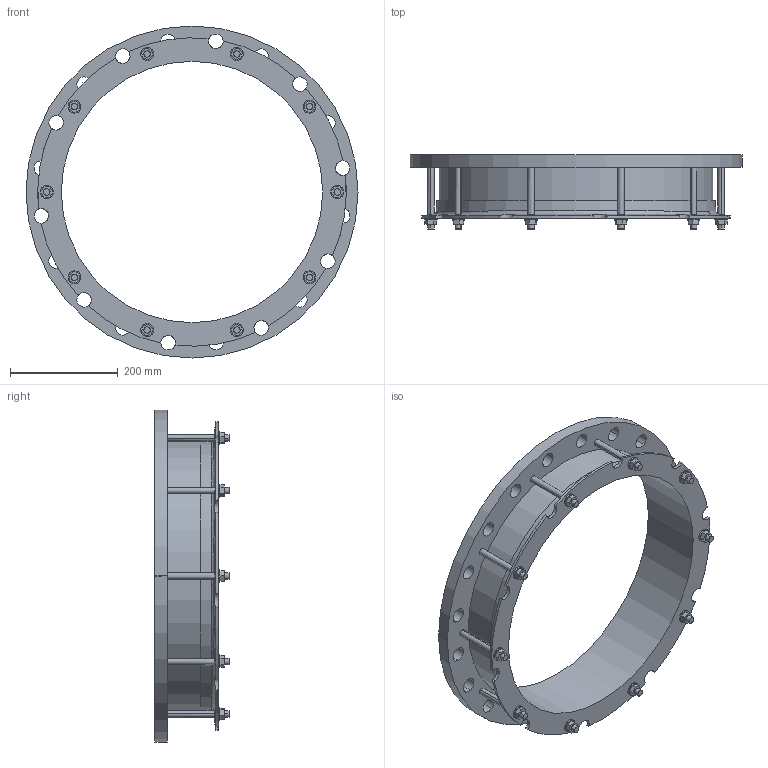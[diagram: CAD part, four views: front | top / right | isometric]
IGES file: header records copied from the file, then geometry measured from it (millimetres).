
Start section:  PTC IGES file: 480x450pn10_10not.igs
Global section: file name: 480x450pn10_10not.igs; native system: Creo Parametric by PTC Inc.; preprocessor: 2016130; author: mfairey; organization: Unknown; date: 20190116.114958; units: millimetre
Bounding box: 615 x 137.45 x 615 mm (x, y, z)
Surface area: 753263.2 mm2 (no closed solid volume)
Topology: 0 solids, 0 shells, 226 faces, 1208 edges, 1208 vertices
Faces by surface type: revolution 132, bspline 94
